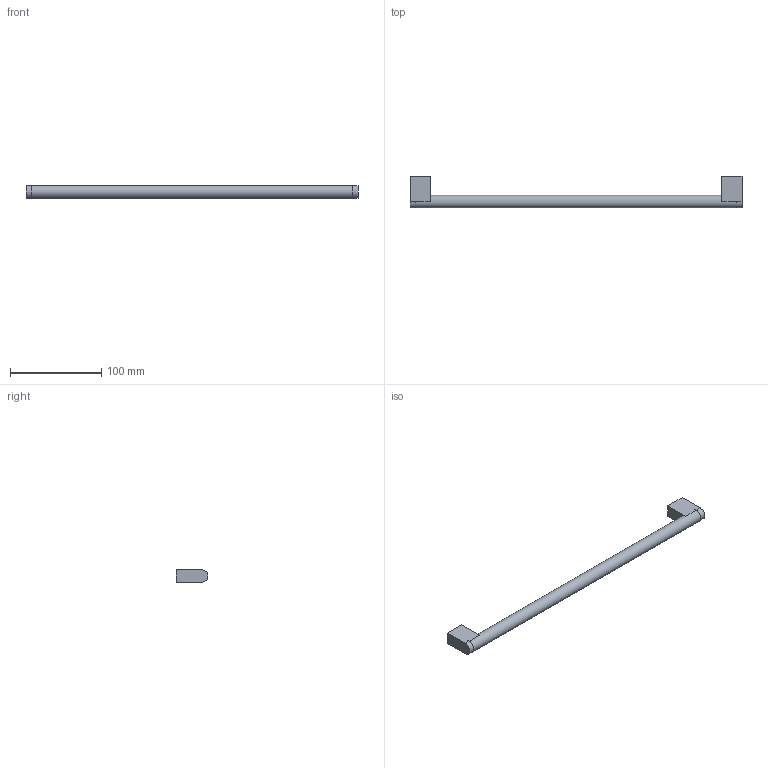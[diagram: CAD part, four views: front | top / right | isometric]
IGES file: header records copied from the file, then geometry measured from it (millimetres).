
Start section: Data from Parasolid IGES Translator 17.0.49, Copyright(c) 2006 Siemens P LM Software. All Rights Reserved.
Global section: file name: 9070109.igs; native system: By Siemens PLM Incorporated; preprocessor: XPlus GENERIC/IGES 17.0.49; author: Noname; organization: Noname; date: 20181120.154712; units: millimetre
Bounding box: 364 x 35 x 14 mm (x, y, z)
Surface area: 21382.7 mm2 (no closed solid volume)
Topology: 0 solids, 0 shells, 21 faces, 82 edges, 78 vertices
Faces by surface type: extrusion 14, revolution 7
